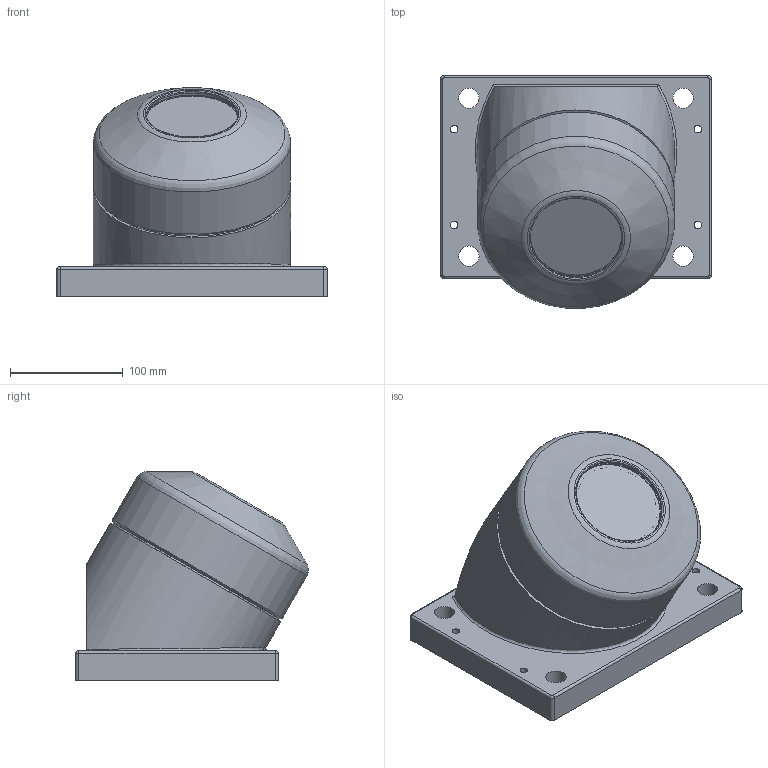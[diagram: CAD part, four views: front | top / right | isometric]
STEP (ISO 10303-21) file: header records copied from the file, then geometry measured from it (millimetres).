
FILE_DESCRIPTION(/* description */ (''),/* implementation_level */ '2;1');
FILE_NAME(/* name */ 'Z:\31-Torikawa\2016\160809_標準SWの180\X2\4EE54E0A306B30A230A430DC30EB30C88FFD52A06848691C8A0E\X0\\160823_for_ISB-HP\160823_040_5318_sw_185_bs_i_t.stp',/* time_stamp */ '2016-08-23T15:09:38+09:00',/* author */ ('torikawa'),/* organization */ (''),/* preprocessor_version */ 'ST-DEVELOPER v15.6',/* originating_system */ 'Autodesk Inventor 2015',/* authorisation */ '');
FILE_SCHEMA (('AUTOMOTIVE_DESIGN { 1 0 10303 214 3 1 1 }'));
Length unit declared in the file: centimetre
Products named in the file (1): 040_5318_sw_185_bs_i_t
Bounding box: 240 x 206.53 x 184.92 mm (x, y, z)
Volume: 3566047.1 mm3; surface area: 316266.8 mm2
Topology: 1 solids, 4 shells, 114 faces, 235 edges, 152 vertices
Faces by surface type: cylinder 45, plane 37, cone 14, torus 11, bspline 7
Full cylindrical faces by diameter (mm): 5 x1, 6.65 x4, 8 x1, 18 x4, 30 x1, 32 x2, 40 x2, 42 x2, 50 x1, 52 x1, 65 x3, 75 x2, 75.1 x1, 81 x1, 81.4 x2, 83.5 x1, 130 x1, 140 x1, 140.1 x1, 145 x1, 175 x2
Entity records: 3245 total; most frequent: CARTESIAN_POINT 955, DIRECTION 481, ORIENTED_EDGE 308, AXIS2_PLACEMENT_3D 229, EDGE_LOOP 220, EDGE_CURVE 154, VERTEX_POINT 132, CIRCLE 115
